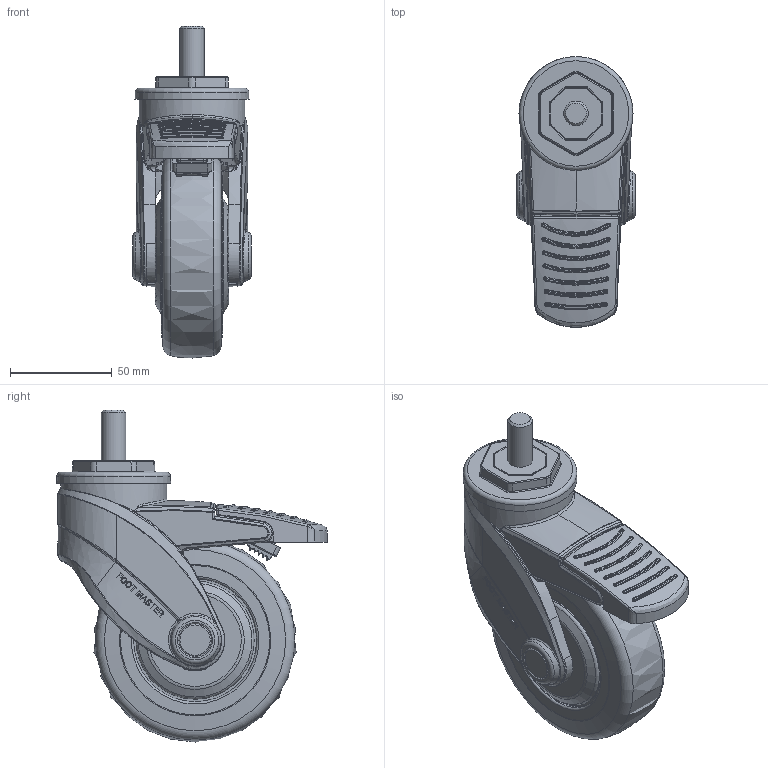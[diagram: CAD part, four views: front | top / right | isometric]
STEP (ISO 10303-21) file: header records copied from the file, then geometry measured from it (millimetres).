
FILE_DESCRIPTION(/* description */ (''),/* implementation_level */ '2;1');
FILE_NAME(/* name */ '\\192.168.10.38\지덕공유\1.기술연구소\2.연구개발 진행중\129.Plastic caster검토건_2025.08.12\1.도면\4.홈페이지용 도면\GPC-100-BSS_F4-8_#6806_M12 STEM_샤프트 리벳_Shrinkwrap_1.stp',/* time_stamp */ '2026-08-20T20:11:25+09:00',/* author */ ('admin'),/* organization */ (''),/* preprocessor_version */ 'ST-DEVELOPER v18.1',/* originating_system */ 'Autodesk Inventor 2021',/* authorisation */ '');
FILE_SCHEMA (('AUTOMOTIVE_DESIGN { 1 0 10303 214 3 1 1 }'));
Length unit declared in the file: millimetre
Products named in the file (1): #102250
Bounding box: 58 x 133 x 163 mm (x, y, z)
Volume: 414320.1 mm3; surface area: 66302.9 mm2
Topology: 1 solids, 1 shells, 1668 faces, 4249 edges, 2598 vertices
Faces by surface type: bspline 898, plane 388, cylinder 251, cone 50, sphere 43, torus 38
Full cylindrical faces by diameter (mm): 12 x1, 52 x1
Entity records: 102190 total; most frequent: CARTESIAN_POINT 67766, ORIENTED_EDGE 8436, DIRECTION 5100, EDGE_CURVE 4218, VERTEX_POINT 2598, AXIS2_PLACEMENT_3D 2012, B_SPLINE_CURVE_WITH_KNOTS 1880, EDGE_LOOP 1722
